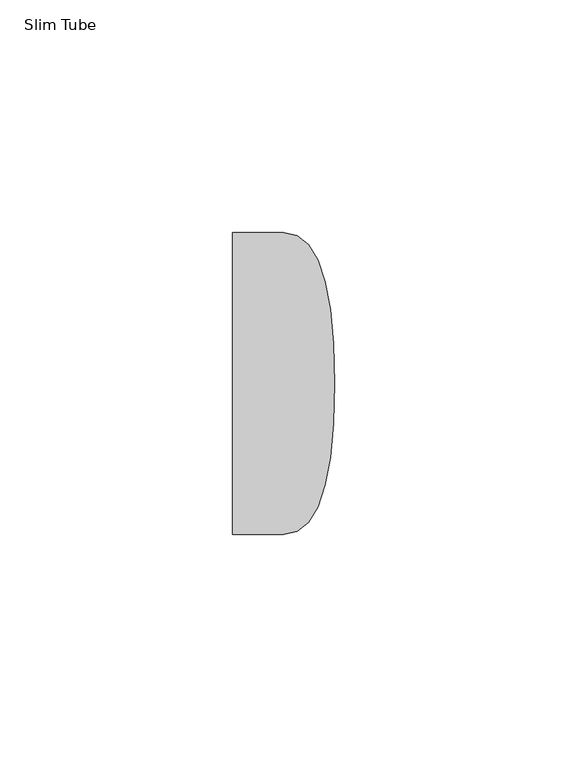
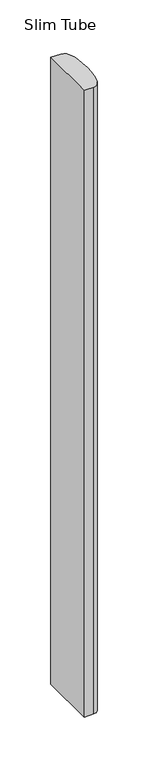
"""IFC4 building model written with IfcOpenShell, lengths in millimetres: sanitary terminal geometry, Z_DO_NOT_USE_NLRS_PF_52_UN_Slim Tube drain pipe_Easydrain : Slim Tube."""

from ifc_helpers import new_model, si_unit, frame, origin, place, context, project, spatial, source, transform, mapped, element, save
from ifc_brep_helpers import plane_surface, extruded_surface, spline_curve, advanced_brep


def slim_tube_321f6302(model_context):
    return source(origin(), model_context, "Body", "AdvancedBrep", [
        advanced_brep(
        [(0.0, 32.5, 0.0), (-11.0, 32.5, 0.0), (-11.0, -32.5, 0.0), (0.0, -32.5, 0.0), (11.0, 0.0, 0.0), (0.0, 32.5, -750.0), (11.0, 0.0, -750.0), (0.0, -32.5, -750.0), (-11.0, -32.5, -750.0), (-11.0, 32.5, -750.0)],
        [
            (0, 1),
            (1, 2),
            (2, 3),
            (3, 4, spline_curve(3, [(0.0, -32.5, 0.0), (7.333333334, -32.5, 0.0), (11.0, -21.666666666, 0.0), (11.0, 0.0, 0.0)], [4, 4], [0.0, 0.07135826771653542])),
            (4, 0, spline_curve(3, [(11.0, 0.0, 0.0), (11.0, 21.666666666, 0.0), (7.333333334, 32.5, 0.0), (0.0, 32.5, 0.0)], [4, 4], [0.0, 0.07135826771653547])),
            (5, 6, spline_curve(3, [(0.0, 32.5, -750.0), (7.333333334, 32.5, -750.0), (11.0, 21.666666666, -750.0), (11.0, 0.0, -750.0)], [4, 4], [0.0, 0.07135826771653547])),
            (6, 7, spline_curve(3, [(11.0, 0.0, -750.0), (11.0, -21.666666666, -750.0), (7.333333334, -32.5, -750.0), (0.0, -32.5, -750.0)], [4, 4], [0.0, 0.07135826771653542])),
            (7, 8),
            (8, 9),
            (9, 5),
            (4, 6),
            (5, 0),
            (3, 7),
            (2, 8),
            (1, 9),
        ],
        [
            plane_surface(frame((0.0, 0.0, 0.0), z_axis=(0.0, 0.0, 1.0), x_axis=(0.0, -1.0, 0.0))),
            plane_surface(frame((0.0, 0.0, -750.0), z_axis=(0.0, 0.0, -1.0), x_axis=(0.0, -1.0, 0.0))),
            extruded_surface(spline_curve(3, [(11.0, 0.0, -750.0), (11.0, 21.666666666, -750.0), (7.333333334, 32.5, -750.0), (0.0, 32.5, -750.0)], [4, 4], [0.0, 0.07135826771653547]), (0.0, 0.0, 750.0), 750.0),
            extruded_surface(spline_curve(3, [(0.0, -32.5, -750.0), (7.333333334, -32.5, -750.0), (11.0, -21.666666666, -750.0), (11.0, 0.0, -750.0)], [4, 4], [0.0, 0.07135826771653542]), (0.0, 0.0, 750.0), 750.0),
            plane_surface(frame((-11.0, -32.5, 0.0), z_axis=(0.0, -1.0, 0.0), x_axis=(0.0, 0.0, -1.0))),
            plane_surface(frame((-11.0, 32.5, 0.0), z_axis=(-1.0, 0.0, 0.0), x_axis=(0.0, 0.0, -1.0))),
            plane_surface(frame((0.0, 32.5, 0.0), z_axis=(0.0, 1.0, 0.0), x_axis=(0.0, 0.0, -1.0))),
        ],
        [
            (0, [[1, 2, 3, 4, 5]]),
            (1, [[6, 7, 8, 9, 10]]),
            (2, [[-5, 11, -6, 12]]),
            (3, [[-4, 13, -7, -11]]),
            (4, [[-3, 14, -8, -13]]),
            (5, [[-2, 15, -9, -14]]),
            (6, [[-1, -12, -10, -15]]),
        ],
    ),
    ])


if __name__ == "__main__":
    model = new_model("IFC4")
    model_context = context("Model", 3, world=origin())
    ifc_project = project(units=[si_unit("LENGTHUNIT", "METRE", prefix="MILLI")], contexts=[model_context])
    site = spatial("IfcSite", under=ifc_project)
    building = spatial("IfcBuilding", under=site)
    placement = place(None, origin())
    slim_tube_shape = slim_tube_321f6302(model_context)
    element("IfcSanitaryTerminal", 1, ObjectType="Z_DO_NOT_USE_NLRS_PF_52_UN_Slim Tube drain pipe_Easydrain : Slim Tube", at=placement, inside=building, context=model_context, shape_type="MappedRepresentation", body=[
        mapped(slim_tube_shape, transform((0.0, 0.0, 0.0), x_axis=(1.0, 0.0, 0.0), y_axis=(0.0, 1.0, 0.0), z_axis=(0.0, 0.0, 1.0))),
    ])
    save(model, "model.ifc")
